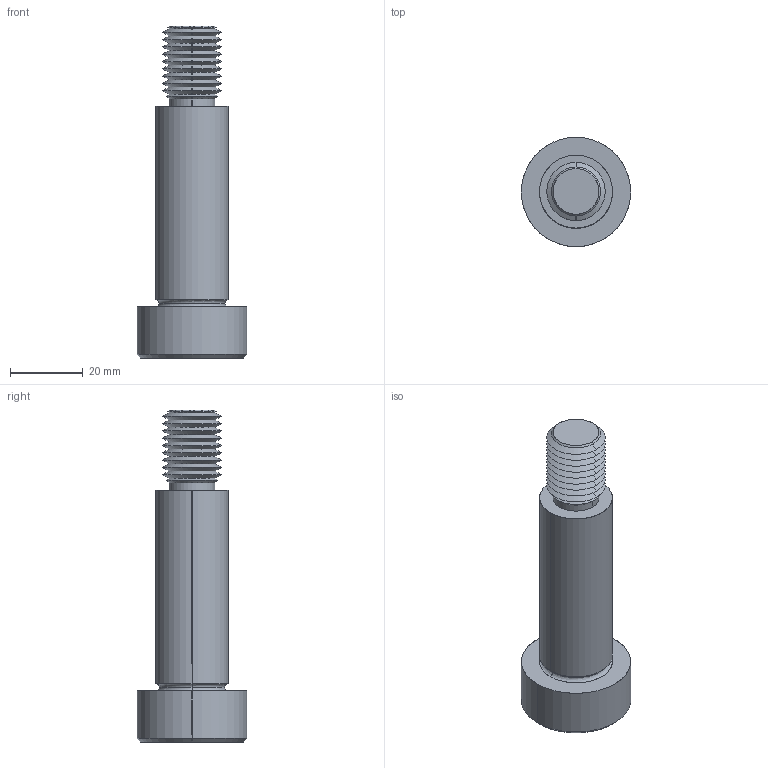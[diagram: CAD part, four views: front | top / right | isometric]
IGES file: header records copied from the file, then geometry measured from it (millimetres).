
Start section: SolidWorks IGES file using analytic representation for surfaces
Global section: file name: C:\Users\IanO\Documents\Temp Folder\GENERAL\SCREW REVISION\P0130_v2\P0130.T5_v2_20220106_IGES\P0130.200-055-T5.igs; native system: SolidWorks 2019; preprocessor: SolidWorks 2019; author: IanO; date: 220106.230051; units: millimetre
Bounding box: 30 x 30 x 91 mm (x, y, z)
Surface area: 8373.7 mm2 (no closed solid volume)
Topology: 0 solids, 0 shells, 80 faces, 692 edges, 690 vertices
Faces by surface type: revolution 60, bspline 20
